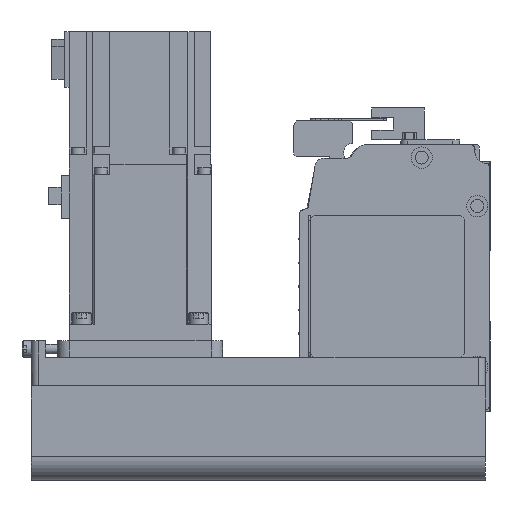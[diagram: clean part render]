
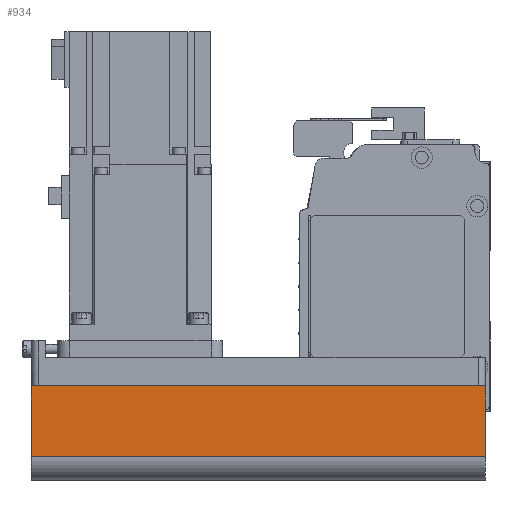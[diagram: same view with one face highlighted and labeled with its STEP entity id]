
A CAD part, left-side view. The second image highlights one B-rep face of the part: STEP entity #934.
In plain terms, the highlighted planar face has unit normal (-1, 0, 0) as drawn and (0, -1, 0) by its records, which use the part's own axes.
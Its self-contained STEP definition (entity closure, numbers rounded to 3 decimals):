
#934 = ADVANCED_FACE( '', ( #2443 ), #2444, .T. );
#2443 = FACE_OUTER_BOUND( '', #4739, .T. );
#2444 = PLANE( '', #4740 );
#4739 = EDGE_LOOP( '', ( #7216, #7217, #7218, #7219 ) );
#4740 = AXIS2_PLACEMENT_3D( '', #7220, #7221, #7222 );
#7216 = ORIENTED_EDGE( '', *, *, #13356, .F. );
#7217 = ORIENTED_EDGE( '', *, *, #13357, .F. );
#7218 = ORIENTED_EDGE( '', *, *, #13358, .T. );
#7219 = ORIENTED_EDGE( '', *, *, #13359, .T. );
#7220 = CARTESIAN_POINT( '', ( -192., -40., -12.1 ) );
#7221 = DIRECTION( '', ( 0., -1., 0. ) );
#7222 = DIRECTION( '', ( 0., 0., -1. ) );
#13356 = EDGE_CURVE( '', #15941, #15942, #15943, .T. );
#13357 = EDGE_CURVE( '', #15944, #15941, #15945, .T. );
#13358 = EDGE_CURVE( '', #15944, #15946, #15947, .T. );
#13359 = EDGE_CURVE( '', #15946, #15942, #15948, .T. );
#15941 = VERTEX_POINT( '', #19646 );
#15942 = VERTEX_POINT( '', #19647 );
#15943 = LINE( '', #19648, #19649 );
#15944 = VERTEX_POINT( '', #19650 );
#15945 = LINE( '', #19651, #19652 );
#15946 = VERTEX_POINT( '', #19653 );
#15947 = LINE( '', #19654, #19655 );
#15948 = LINE( '', #19656, #19657 );
#19646 = CARTESIAN_POINT( '', ( 0., -40., -12.1 ) );
#19647 = CARTESIAN_POINT( '', ( 0., -40., -42. ) );
#19648 = CARTESIAN_POINT( '', ( 0., -40., -12.1 ) );
#19649 = VECTOR( '', #24271, 1000. );
#19650 = CARTESIAN_POINT( '', ( -192., -40., -12.1 ) );
#19651 = CARTESIAN_POINT( '', ( -192., -40., -12.1 ) );
#19652 = VECTOR( '', #24272, 1000. );
#19653 = CARTESIAN_POINT( '', ( -192., -40., -42. ) );
#19654 = CARTESIAN_POINT( '', ( -192., -40., -12.1 ) );
#19655 = VECTOR( '', #24273, 1000. );
#19656 = CARTESIAN_POINT( '', ( -192., -40., -42. ) );
#19657 = VECTOR( '', #24274, 1000. );
#24271 = DIRECTION( '', ( 0., 0., -1. ) );
#24272 = DIRECTION( '', ( 1., 0., 0. ) );
#24273 = DIRECTION( '', ( 0., 0., -1. ) );
#24274 = DIRECTION( '', ( 1., 0., 0. ) );
